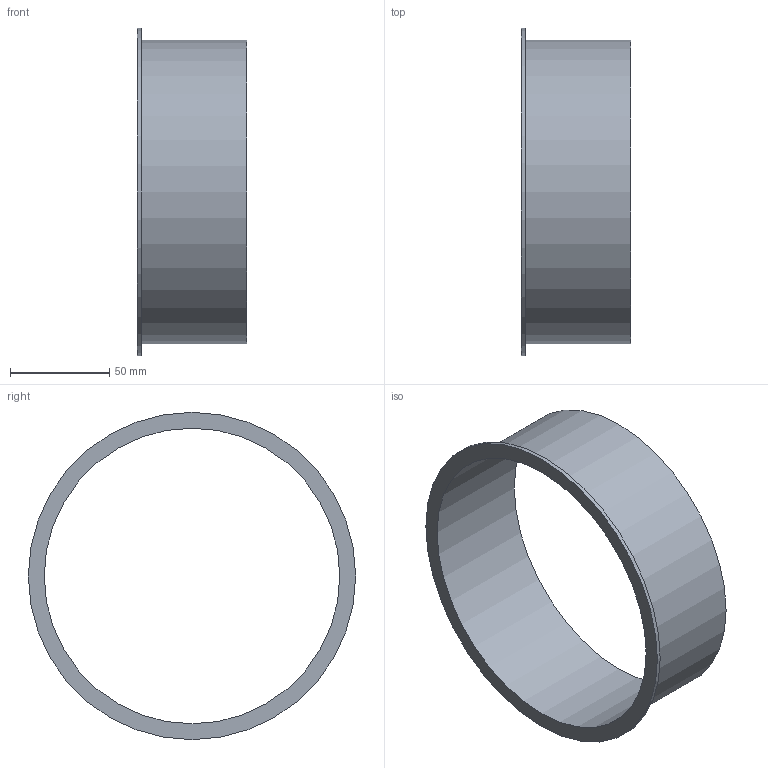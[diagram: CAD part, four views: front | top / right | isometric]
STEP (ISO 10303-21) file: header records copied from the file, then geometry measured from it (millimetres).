
FILE_DESCRIPTION((''),'2;1');
FILE_NAME('U:\Wolfgang\Marcel-3D\fertig\Kapitel 1\1521012.stp','2010-05-31T11:09:13',('TK2'),(''),'Autodesk Inventor 2010','Autodesk Inventor 2010','');
FILE_SCHEMA(('AUTOMOTIVE_DESIGN { 1 0 10303 214 1 1 1 1 }'));
Length unit declared in the file: millimetre
Products named in the file (1): 1521012
Bounding box: 55 x 165 x 165 mm (x, y, z)
Volume: 58176 mm3; surface area: 60148.9 mm2
Topology: 1 solids, 1 shells, 6 faces, 9 edges, 6 vertices
Faces by surface type: cylinder 3, plane 3
Full cylindrical faces by diameter (mm): 149 x1, 153 x1, 165 x1
Entity records: 154 total; most frequent: DIRECTION 26, CARTESIAN_POINT 19, AXIS2_PLACEMENT_3D 13, ORIENTED_EDGE 12, EDGE_LOOP 12, VERTEX_POINT 6, CIRCLE 6, EDGE_CURVE 6
